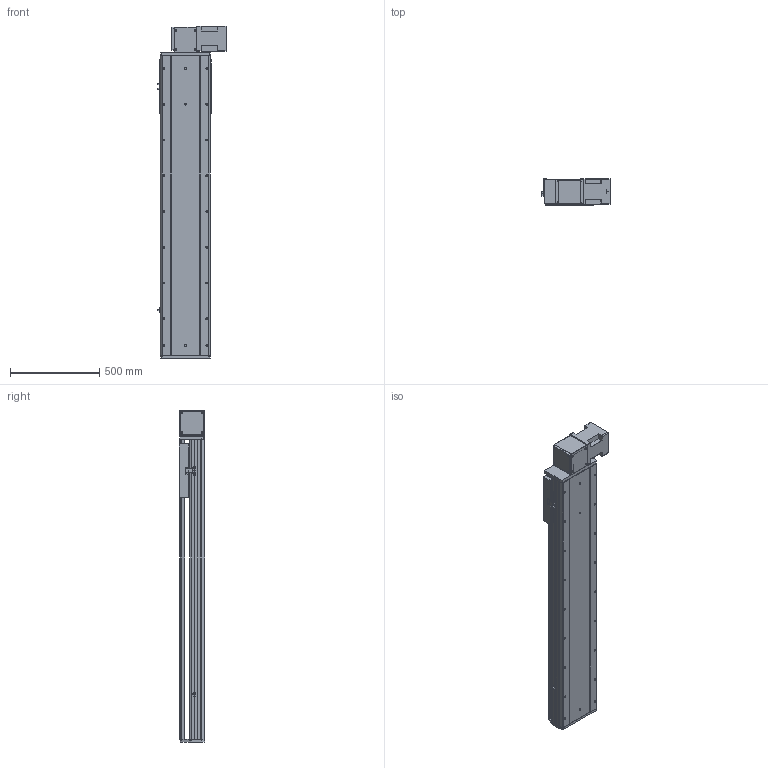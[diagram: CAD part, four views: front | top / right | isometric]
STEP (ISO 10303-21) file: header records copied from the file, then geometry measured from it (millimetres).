
FILE_DESCRIPTION (( 'STEP AP214' ), '1' );
FILE_NAME ('RTB28S-XX-1250-BL-M100-XX-C4.STEP', '2025-12-22T02:21:19', ( '' ), ( '' ), 'SwSTEP 2.0', 'SolidWorks 2018', '' );
FILE_SCHEMA (( 'AUTOMOTIVE_DESIGN' ));
Length unit declared in the file: millimetre
Products named in the file (4): RTB28S-GY-008^RTB28S-XX-XX-BL-M100-XX-C4; RTB28S-GY-011^RTB28S-XX-XX-BL-M100-XX-C4; RTB28S-GY-004^RTB28S-XX-XX-BL-M100-XX-C4; RTB28S-XX-1250-BL-M100-XX-C4
Assembly tree (3 placements, depth 2):
  RTB28S-XX-1250-BL-M100-XX-C4
    RTB28S-GY-011^RTB28S-XX-XX-BL-M100-XX-C4
    RTB28S-GY-004^RTB28S-XX-XX-BL-M100-XX-C4
    RTB28S-GY-008^RTB28S-XX-XX-BL-M100-XX-C4
Bounding box: 380.7 x 145 x 1857 mm (x, y, z)
Volume: 33552696.8 mm3; surface area: 3216332 mm2
Topology: 3 solids, 4 shells, 798 faces, 2118 edges, 1348 vertices
Faces by surface type: cylinder 367, plane 347, cone 80, torus 4
Entity records: 29999 total; most frequent: CARTESIAN_POINT 5152, DIRECTION 4488, ORIENTED_EDGE 4172, EDGE_CURVE 2086, AXIS2_PLACEMENT_3D 1624, VERTEX_POINT 1348, VECTOR 1240, LINE 1240
